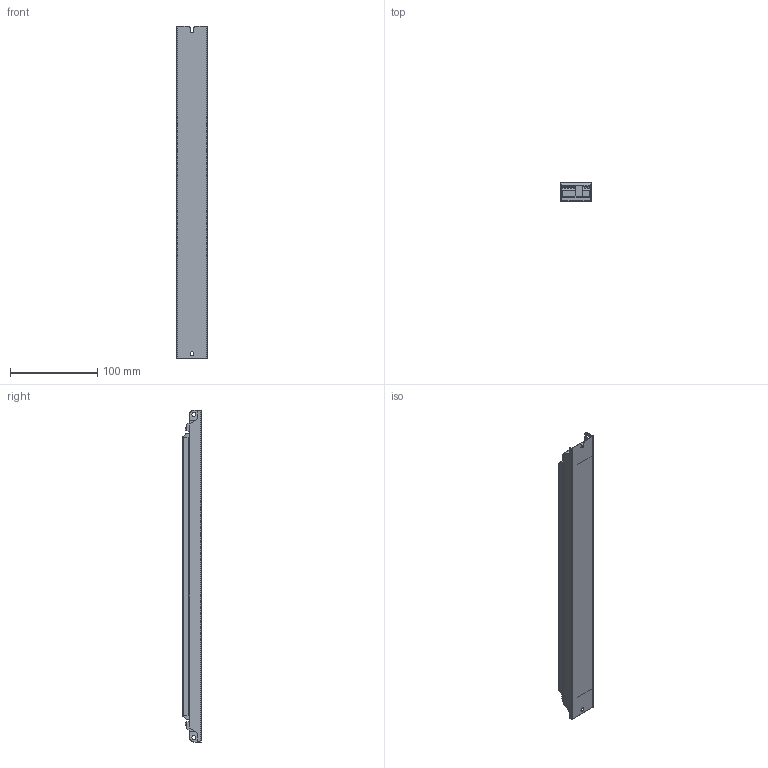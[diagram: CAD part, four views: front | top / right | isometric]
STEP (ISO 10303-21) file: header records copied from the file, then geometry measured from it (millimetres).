
FILE_DESCRIPTION (( 'STEP AP214' ), '1' );
FILE_NAME ('ll2x35-e-da.STEP', '2014-03-06T10:19:05', ( '' ), ( '' ), 'SwSTEP 2.0', 'SolidWorks 2014', '' );
FILE_SCHEMA (( 'AUTOMOTIVE_DESIGN' ));
Length unit declared in the file: millimetre
Products named in the file (1): ll2x35-e-da
Bounding box: 35 x 21 x 380 mm (x, y, z)
Volume: 248807.4 mm3; surface area: 48701.1 mm2
Topology: 1 solids, 1 shells, 274 faces, 740 edges, 488 vertices
Faces by surface type: plane 191, cylinder 83
Entity records: 9416 total; most frequent: CARTESIAN_POINT 1767, ORIENTED_EDGE 1480, DIRECTION 1398, EDGE_CURVE 740, VECTOR 568, LINE 568, VERTEX_POINT 488, AXIS2_PLACEMENT_3D 415
